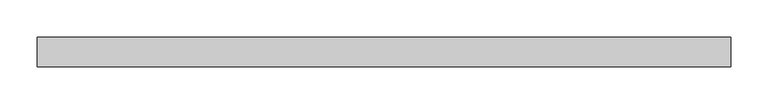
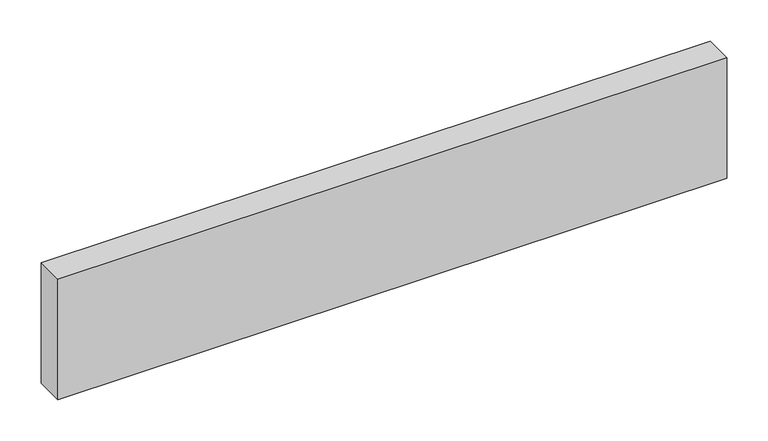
"""IFC4 building model written with IfcOpenShell, lengths in millimetres: plate geometry, Panneau système vide : Epaiss. 4cm."""

from ifc_helpers import new_model, si_unit, origin, origin_with_axes, place, context, project, spatial, polyline, outline, extrude, source, transform, mapped, element, save


def plate_20ed14a7(model_context):
    return source(origin(), model_context, "Body", "SweptSolid", [
        extrude(outline(polyline([(468.0778041, -20.0), (-468.0778041, -20.0), (-468.0778041, 20.0), (468.0778041, 20.0), (468.0778041, -20.0)])), origin_with_axes(), (0.0, 0.0, 1.0), 178.3333333),
    ])


if __name__ == "__main__":
    model = new_model("IFC4")
    model_context = context("Model", 3, world=origin())
    ifc_project = project(units=[si_unit("LENGTHUNIT", "METRE", prefix="MILLI")], contexts=[model_context])
    site = spatial("IfcSite", under=ifc_project)
    building = spatial("IfcBuilding", under=site)
    placement = place(None, origin())
    plate_shape = plate_20ed14a7(model_context)
    element("IfcPlate", 1, ObjectType="Panneau système vide : Epaiss. 4cm", at=placement, inside=building, context=model_context, shape_type="MappedRepresentation", body=[
        mapped(plate_shape, transform((0.0, 0.0, 0.0), x_axis=(1.0, 0.0, 0.0), y_axis=(0.0, 1.0, 0.0), z_axis=(0.0, 0.0, 1.0))),
    ])
    save(model, "model.ifc")
